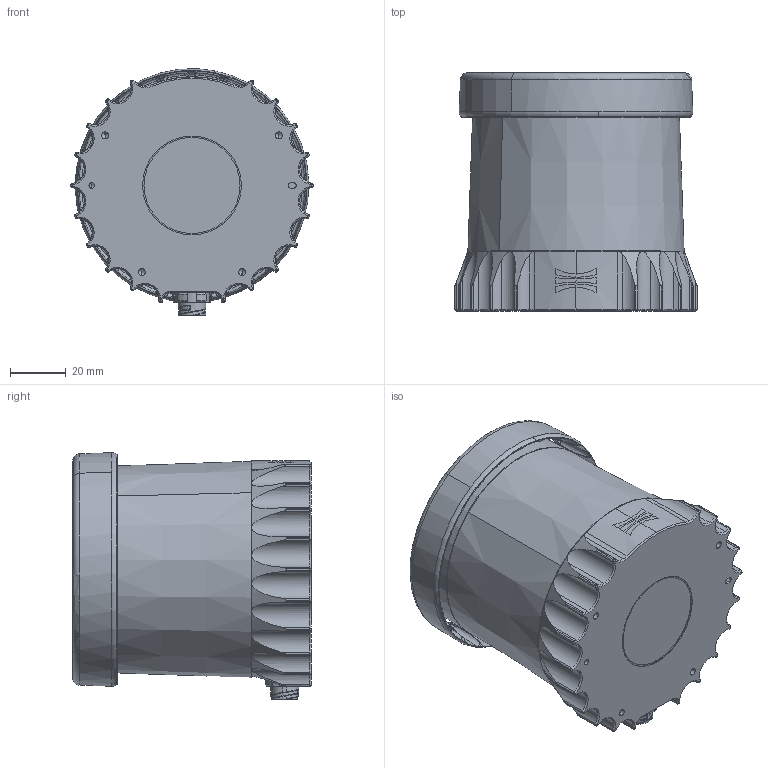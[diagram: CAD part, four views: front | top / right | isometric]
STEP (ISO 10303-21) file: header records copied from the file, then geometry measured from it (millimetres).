
FILE_DESCRIPTION (( 'STEP AP214' ), '1' );
FILE_NAME ('OS1MAX-08 b-cccc-ddddd-XH-fff-ggg.STEP', '2026-05-01T20:25:10', ( '' ), ( '' ), 'SwSTEP 2.0', 'SolidWorks 2022', '' );
FILE_SCHEMA (( 'AUTOMOTIVE_DESIGN' ));
Length unit declared in the file: millimetre
Products named in the file (1): OS1MAX-08 b-cccc-ddddd-XH-fff-ggg
Bounding box: 87 x 85.61 x 88.63 mm (x, y, z)
Volume: 211403.2 mm3; surface area: 71666.3 mm2
Topology: 6 solids, 7 shells, 2169 faces, 5869 edges, 3655 vertices
Faces by surface type: bspline 909, cone 440, cylinder 416, plane 216, torus 188
Entity records: 130168 total; most frequent: CARTESIAN_POINT 62009, ORIENTED_EDGE 11550, DIRECTION 6235, EDGE_CURVE 5775, VERTEX_POINT 3655, AXIS2_PLACEMENT_3D 2656, B_SPLINE_CURVE_WITH_KNOTS 2654, EDGE_LOOP 2280
